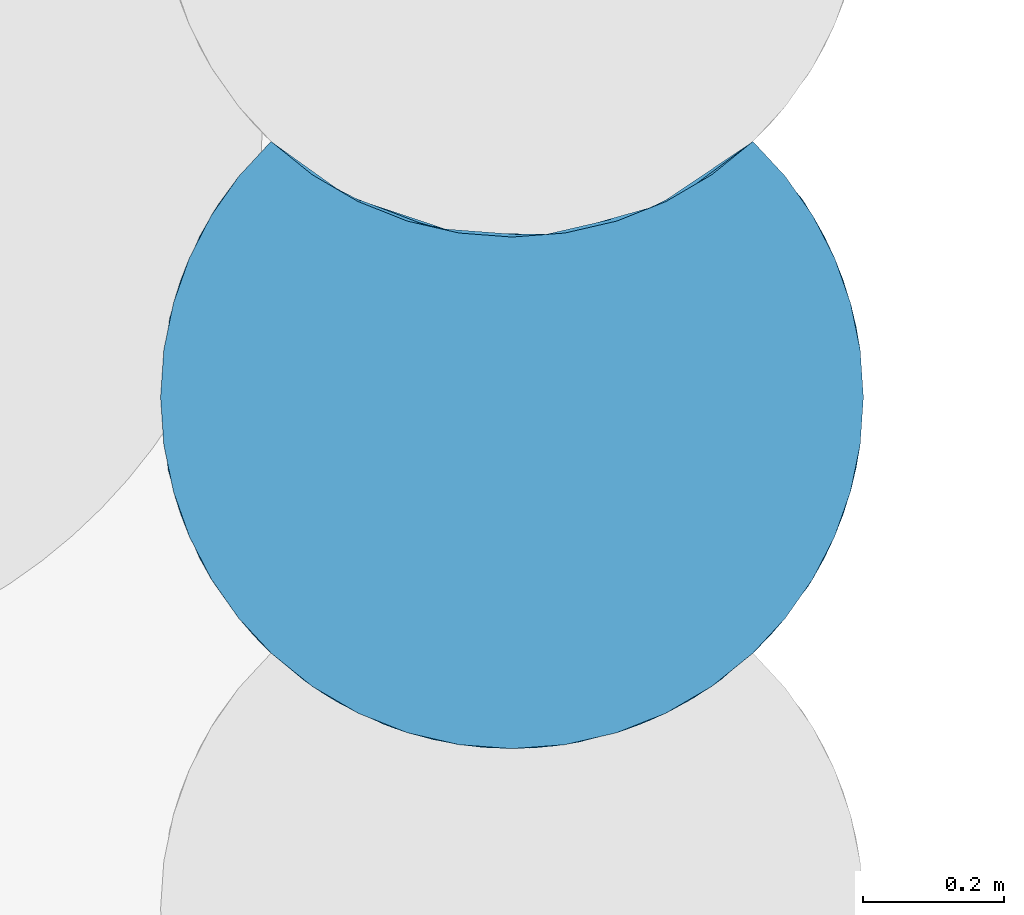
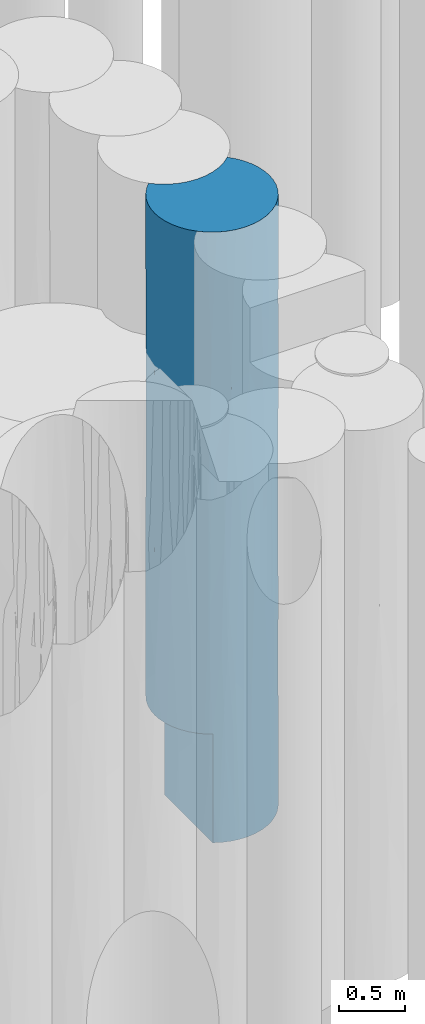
# One storey, part 45 of 104: 1 pile.
"""IFC2X3 building model written with IfcOpenShell, lengths in millimetres."""

from ifc_helpers import new_model, entity, si_unit, converted_unit, derived_unit, direction, frame, origin, place, context, subcontext, project, spatial, faceted_brep, source, transform, mapped, material, element, save


model = new_model("IFC2X3")

# Units and contexts
model_context = context("Model", 3, precision=0.01, world=origin(), true_north=direction((6.12303176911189e-17, 1.0)))
body_context = subcontext(model_context, "Body", "Model", "MODEL_VIEW")
ifc_project = project(units=[si_unit("LENGTHUNIT", "METRE", prefix="MILLI"), si_unit("AREAUNIT", "SQUARE_METRE", prefix="MILLI"), si_unit("VOLUMEUNIT", "CUBIC_METRE"), converted_unit("PLANEANGLEUNIT", "DEGREE", entity("IfcRatioMeasure", 0.0174532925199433), si_unit("PLANEANGLEUNIT", "RADIAN"), dimensions=[0, 0, 0, 0, 0, 0, 0]), si_unit("MASSUNIT", "GRAM", prefix="KILO"), derived_unit("MASSDENSITYUNIT", [(si_unit("MASSUNIT", "GRAM", prefix="KILO"), 1), (si_unit("LENGTHUNIT", "METRE"), -3)]), derived_unit("MOMENTOFINERTIAUNIT", [(si_unit("LENGTHUNIT", "METRE"), 4)]), si_unit("TIMEUNIT", "SECOND"), si_unit("FREQUENCYUNIT", "HERTZ"), si_unit("THERMODYNAMICTEMPERATUREUNIT", "DEGREE_CELSIUS"), derived_unit("THERMALTRANSMITTANCEUNIT", [(si_unit("MASSUNIT", "GRAM", prefix="KILO"), 1), (si_unit("THERMODYNAMICTEMPERATUREUNIT", "KELVIN"), -1), (si_unit("TIMEUNIT", "SECOND"), -3)]), derived_unit("VOLUMETRICFLOWRATEUNIT", [(si_unit("LENGTHUNIT", "METRE"), 3), (si_unit("TIMEUNIT", "SECOND"), -1)]), si_unit("ELECTRICCURRENTUNIT", "AMPERE"), si_unit("ELECTRICVOLTAGEUNIT", "VOLT"), si_unit("POWERUNIT", "WATT"), si_unit("FORCEUNIT", "NEWTON", prefix="KILO"), si_unit("ILLUMINANCEUNIT", "LUX"), si_unit("LUMINOUSFLUXUNIT", "LUMEN"), si_unit("LUMINOUSINTENSITYUNIT", "CANDELA"), derived_unit("USERDEFINED", [(si_unit("MASSUNIT", "GRAM", prefix="KILO"), -1), (si_unit("LENGTHUNIT", "METRE"), -2), (si_unit("TIMEUNIT", "SECOND"), 3), (si_unit("LUMINOUSFLUXUNIT", "LUMEN"), 1)]), derived_unit("LINEARVELOCITYUNIT", [(si_unit("LENGTHUNIT", "METRE"), 1), (si_unit("TIMEUNIT", "SECOND"), -1)]), si_unit("PRESSUREUNIT", "PASCAL"), derived_unit("USERDEFINED", [(si_unit("LENGTHUNIT", "METRE"), -2), (si_unit("MASSUNIT", "GRAM", prefix="KILO"), 1), (si_unit("TIMEUNIT", "SECOND"), -2)]), derived_unit("LINEARFORCEUNIT", [(si_unit("MASSUNIT", "GRAM", prefix="KILO"), 1), (si_unit("LENGTHUNIT", "METRE"), 1), (si_unit("TIMEUNIT", "SECOND"), -2), (si_unit("LENGTHUNIT", "METRE"), -1)]), derived_unit("PLANARFORCEUNIT", [(si_unit("MASSUNIT", "GRAM", prefix="KILO"), 1), (si_unit("LENGTHUNIT", "METRE"), 1), (si_unit("TIMEUNIT", "SECOND"), -2), (si_unit("LENGTHUNIT", "METRE"), -2)])], contexts=[model_context])

# Site, building, storey
site_placement = place(None, origin())
site = spatial("IfcSite", under=ifc_project, at=site_placement, Name="Theater aan de Parade", CompositionType="ELEMENT")
building_placement = place(site_placement, origin())
building = spatial("IfcBuilding", under=site, at=building_placement, Name="Theater aan de Parade", CompositionType="ELEMENT")
storey_placement = place(building_placement, frame((0.0, 0.0, -5520.0)))
storey = spatial("IfcBuildingStorey", under=building, at=storey_placement, Name="-2 kelder", CompositionType="ELEMENT", Elevation=-5520.0)

# Pile
ifc_material = material(Name="00_PBT_MAT_grout")
shared_shape = source(origin(), body_context, "Body", "Brep", [
    faceted_brep([(844.383836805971, 865.595272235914, 0.0), (890.54651868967, 815.787773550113, 0.0), (929.522999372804, 760.202813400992, 0.0), (960.609902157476, 699.85159500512, 0.0), (983.235934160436, 635.842330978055, 0.0), (996.98227680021, 569.357471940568, 0.0), (1001.59527223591, 501.595272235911, 0.0), (996.982363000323, 433.833702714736, 0.0), (983.232797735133, 367.336961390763, 0.0), (960.601026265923, 303.318400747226, 0.0), (929.506379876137, 242.960232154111, 0.0), (890.523168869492, 187.37386745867, 0.0), (844.367328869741, 137.587565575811, 0.0), (789.900252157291, 93.0854944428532, 0.0), (729.725628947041, 56.6721998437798, 0.0), (665.036786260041, 29.0628696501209, 0.0), (597.113268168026, 10.803755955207, 0.0), (527.298587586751, 2.25636970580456, 0.0), (456.973729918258, 3.5903345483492, 0.0), (387.529915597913, 14.7800152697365, 0.0), (320.34218923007, 35.6045857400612, 0.0), (256.737142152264, 65.6543403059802, 0.0), (256.737142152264, 793.654340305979, 0.0), (320.332660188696, 763.608292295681, 0.0), (387.514773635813, 742.783563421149, 0.0), (456.954548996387, 731.592053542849, 0.0), (527.278433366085, 730.255332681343, 0.0), (597.095332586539, 738.800265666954, 0.0), (665.024042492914, 757.058461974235, 0.0), (729.720490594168, 784.669565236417, 0.0), (789.902741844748, 821.087251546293, 0.0), (946.091901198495, 730.555414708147, 1043.52260300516), (844.383836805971, 865.59527223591, 1561.53796445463), (991.802660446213, 600.067179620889, 2700.88189763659), (1001.59527223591, 501.595272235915, 1561.53772532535), (973.010577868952, 668.231431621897, 1936.06593957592), (985.215355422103, 628.526809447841, 1004.42467996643), (1001.59527223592, 501.595272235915, 4058.46227467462), (1001.59527223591, 501.595272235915, 3123.0754506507), (973.010577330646, 668.231433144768, 3903.08947333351), (929.522999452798, 760.202813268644, 5620.0), (960.609902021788, 699.851595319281, 5620.0), (946.091900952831, 730.555415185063, 4676.4192162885), (913.551239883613, 784.954197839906, 2342.30656510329), (844.383836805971, 865.595272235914, 3123.07592890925), (918.831384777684, 777.120273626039, 3590.76885473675), (991.238840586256, 602.833486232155, 4676.41593122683), (844.383836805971, 865.59527223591, 2810.0), (890.546518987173, 815.787773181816, 5620.0), (1001.59527223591, 501.595272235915, 5620.0), (844.383836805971, 865.595272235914, 4058.46263982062), (844.383836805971, 865.59527223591, 4215.0), (844.383836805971, 865.595272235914, 5620.0), (844.383836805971, 865.59527223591, 1405.0), (959.857267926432, 701.585130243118, 2919.57770266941), (983.235934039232, 635.842331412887, 5620.0), (996.982276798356, 569.357471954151, 5620.0), (75.6274737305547, 239.771983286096, 1995.61399229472), (30.1805830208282, 334.957369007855, 2218.27442105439), (42.5824247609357, 303.334822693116, 1000.0), (134.88277774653, 161.710076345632, 2418.55345061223), (112.651413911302, 187.39362508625, 1000.0), (158.80670766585, 137.59527223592, 1000.0), (720.545942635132, 52.0837552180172, 5620.0), (753.846008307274, 69.8898562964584, 4632.57729967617), (785.707284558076, 90.1583214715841, 5620.0), (205.55656057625, 98.6547292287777, 1000.0), (230.643976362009, 81.3746215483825, 2134.89297890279), (422.054809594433, 7.96249900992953, 1451.97849466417), (346.510097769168, 26.2547746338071, 890.802674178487), (463.858644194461, 3.02135905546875, 2888.34534531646), (335.305702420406, 30.0575972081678, 2719.3493512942), (562.356411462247, 5.30092010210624, 1266.29474004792), (6.20734057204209, 433.839850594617, 1000.0), (1.5952722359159, 501.595272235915, 2561.53770843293), (1.5952722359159, 501.595272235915, 1000.0), (946.079419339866, 272.61089946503, 1043.5794793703), (800.820323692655, 101.01523206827, 2100.83103257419), (868.292389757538, 161.69348641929, 1387.65589207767), (868.29238979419, 161.693486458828, 2809.98987631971), (760.454010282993, 73.8194504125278, 1100.89175136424), (973.004901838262, 334.9430561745, 1936.13925481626), (985.208818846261, 374.638832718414, 1004.44881837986), (256.737142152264, 65.6543403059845, 1000.0), (112.644025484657, 187.402771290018, 5620.0), (134.87878151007, 161.714388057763, 4196.65892270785), (158.806707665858, 137.595272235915, 5620.0), (352.795268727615, 24.2499475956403, 5620.0), (389.245844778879, 14.3811446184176, 4188.02464063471), (426.337278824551, 7.29148464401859, 5620.0), (249.344536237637, 69.8898562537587, 4479.12567170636), (217.483259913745, 90.1583214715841, 5620.0), (73.6725420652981, 242.979462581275, 1000.0), (922.593400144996, 231.853587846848, 2115.32147684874), (19.9543975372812, 367.348976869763, 1000.0), (1.5952722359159, 501.595272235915, 5620.0), (1.5952722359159, 501.595272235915, 4123.07541686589), (6.20826767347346, 433.833072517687, 5620.0), (30.1799661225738, 334.959114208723, 4401.71203002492), (502.471540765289, 1.59604008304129, 2022.39135488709), (868.311763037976, 161.714388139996, 4232.3426859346), (792.130237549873, 94.668455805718, 3561.93124791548), (57.1018841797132, 272.628838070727, 3309.99400258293), (73.1041314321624, 243.922335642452, 4207.1244588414), (42.5806424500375, 303.338949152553, 5620.0), (19.9546104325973, 367.348213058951, 5620.0), (230.643976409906, 81.3746215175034, 3303.80572417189), (960.609902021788, 303.338949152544, 5620.0), (929.522999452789, 242.987731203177, 5620.0), (946.091901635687, 272.635130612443, 4676.41921033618), (959.029264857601, 299.718719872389, 2919.64207956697), (73.6675450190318, 242.987731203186, 5620.0), (596.943864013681, 10.7708168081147, 2804.93339199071), (539.331900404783, 3.02135906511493, 4273.08668055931), (722.454643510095, 53.018480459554, 2969.07538106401), (576.853265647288, 7.29148464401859, 5620.0), (665.238504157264, 29.1326889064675, 4728.7430145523), (282.644601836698, 52.0837552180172, 5620.0), (973.010578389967, 334.959114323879, 3903.08946802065), (991.556587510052, 401.906207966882, 2715.85143927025), (317.862121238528, 36.5768540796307, 1755.52061088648), (12.4038606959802, 398.194291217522, 3331.8912946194), (697.867280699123, 41.7286625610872, 2048.61973065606), (664.567992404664, 28.9009815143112, 1130.20477478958), (991.238840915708, 400.357059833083, 4676.41592103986), (983.235934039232, 367.348213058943, 5620.0), (996.982276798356, 433.833072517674, 5620.0), (152.551743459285, 143.588826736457, 3307.61325341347), (501.595272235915, 1.5952722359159, 5620.0), (926.234759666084, 237.623103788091, 3739.11688153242), (844.383836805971, 137.595272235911, 5620.0), (650.395275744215, 24.2499475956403, 5620.0), (890.546518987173, 187.402771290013, 5620.0), (685.996518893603, 36.8413801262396, 3849.22576669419), (785.695330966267, 818.150067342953, 5620.0), (720.53458465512, 780.07822308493, 5620.0), (650.386060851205, 752.247075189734, 5620.0), (576.847851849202, 735.290660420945, 5620.0), (501.595272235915, 729.595272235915, 5620.0), (426.342692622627, 735.290660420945, 5620.0), (352.804483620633, 752.247075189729, 5620.0), (282.655959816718, 780.07822308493, 5620.0), (217.495213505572, 818.150067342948, 5620.0), (158.806707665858, 865.59527223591, 5620.0), (112.651085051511, 815.796512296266, 5620.0), (73.6726367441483, 760.211238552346, 5620.0), (42.5833372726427, 699.857834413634, 5620.0), (19.9555086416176, 635.84555389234, 5620.0), (6.20818208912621, 569.356846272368, 5620.0), (422.037626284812, 735.965268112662, 809.439239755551), (158.806707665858, 865.595272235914, 1000.0), (158.806707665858, 865.595272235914, 2561.53770736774), (205.578323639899, 826.638740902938, 1000.0), (256.737142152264, 793.654340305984, 1000.0), (317.204383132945, 764.83727067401, 4600.85724456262), (562.337327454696, 733.298584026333, 1307.20068901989), (258.237007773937, 792.815287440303, 3390.49133173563), (225.507460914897, 812.73136106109, 4669.40036667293), (753.834283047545, 797.883005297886, 4692.95922475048), (340.972540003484, 756.097291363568, 1245.26829094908), (760.452843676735, 801.818744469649, 933.904601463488), (562.337327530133, 733.298584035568, 2802.30532647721), (539.329170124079, 731.021152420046, 4250.35305226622), (685.986161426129, 764.837270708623, 3987.22153552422), (341.790733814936, 755.82052670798, 2937.07933647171), (389.253215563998, 742.379445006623, 3777.86693941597), (441.601980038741, 733.207515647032, 2778.54310899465), (773.724086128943, 810.136205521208, 3787.61622226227), (677.041029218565, 761.387213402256, 849.093383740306), (672.457323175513, 759.695113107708, 4812.22637279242), (158.806707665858, 865.595272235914, 4123.0754147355), (267.680937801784, 787.685684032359, 2194.5411358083), (422.03762634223, 735.96526810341, 1681.09734198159), (415.046579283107, 737.142915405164, 4686.05792310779), (778.707993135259, 813.411971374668, 1759.56848415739), (697.858424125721, 769.724882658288, 1681.12039109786), (708.509039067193, 774.417622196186, 2842.65985011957), (57.0976620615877, 730.55350980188, 2936.01182480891), (77.6278143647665, 766.645446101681, 2004.37665318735), (30.1816560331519, 668.236210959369, 4223.57134425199), (14.2722960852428, 613.4716187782, 3074.84642249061), (30.1762796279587, 668.221000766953, 2043.51622702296), (42.5776896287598, 699.844758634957, 1000.0), (19.9506701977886, 635.828194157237, 1000.0), (73.6691815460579, 760.205521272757, 1000.0), (83.5815302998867, 775.939055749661, 4493.22792042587), (6.20537477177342, 569.336319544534, 1000.0), (112.651806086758, 815.797404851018, 1000.0)], [[[0, 1, 2, 3, 4, 5, 6, 7, 8, 9, 10, 11, 12, 13, 14, 15, 16, 17, 18, 19, 20, 21, 22, 23, 24, 25, 26, 27, 28, 29, 30]], [[31, 1, 32]], [[31, 3, 2]], [[33, 34, 35]], [[31, 36, 3]], [[37, 38, 39]], [[4, 3, 36]], [[40, 41, 42]], [[43, 44, 45]], [[42, 46, 39]], [[43, 32, 47, 44]], [[48, 40, 42]], [[49, 37, 46]], [[48, 50, 51, 52]], [[1, 0, 53, 32]], [[35, 54, 33]], [[6, 5, 34]], [[41, 55, 42]], [[5, 4, 36]], [[55, 56, 46]], [[43, 31, 32]], [[46, 42, 55]], [[50, 45, 44]], [[45, 42, 39]], [[31, 35, 36]], [[48, 42, 50]], [[1, 31, 2]], [[49, 46, 56]], [[37, 39, 46]], [[42, 45, 50]], [[54, 45, 39]], [[54, 43, 45]], [[31, 43, 35]], [[35, 34, 36]], [[5, 36, 34]], [[33, 39, 38]], [[43, 54, 35]], [[39, 33, 54]], [[34, 33, 38]], [[57, 58, 59]], [[60, 61, 62]], [[63, 64, 65]], [[66, 67, 62]], [[68, 69, 18]], [[70, 71, 68]], [[16, 72, 17]], [[73, 74, 75]], [[67, 60, 62]], [[11, 10, 76]], [[18, 69, 19]], [[77, 78, 79]], [[12, 80, 13]], [[72, 18, 17]], [[81, 76, 82]], [[34, 82, 7]], [[83, 21, 20]], [[84, 85, 86]], [[87, 88, 89]], [[90, 91, 86]], [[90, 86, 85]], [[67, 66, 83]], [[59, 92, 57]], [[93, 76, 81]], [[73, 94, 58]], [[61, 60, 57]], [[95, 96, 97]], [[98, 97, 96]], [[68, 72, 99]], [[100, 64, 101]], [[98, 102, 103]], [[103, 104, 98]], [[104, 105, 98]], [[106, 90, 85]], [[107, 108, 109]], [[93, 81, 110]], [[103, 111, 104]], [[70, 112, 113]], [[77, 101, 114]], [[115, 113, 116]], [[90, 117, 91]], [[118, 110, 119]], [[87, 90, 88]], [[67, 120, 71]], [[89, 88, 113]], [[88, 90, 106]], [[13, 80, 14]], [[73, 58, 74]], [[121, 58, 102]], [[78, 80, 12]], [[80, 122, 123]], [[70, 113, 88]], [[72, 122, 112]], [[80, 123, 14]], [[11, 78, 12]], [[123, 16, 15]], [[34, 7, 6]], [[119, 34, 38]], [[109, 124, 125]], [[124, 126, 125]], [[9, 76, 10]], [[97, 98, 105]], [[67, 106, 127]], [[82, 76, 9]], [[9, 8, 82]], [[49, 126, 124]], [[121, 96, 74]], [[38, 37, 118]], [[115, 128, 113]], [[112, 122, 114]], [[80, 77, 122]], [[121, 102, 98]], [[128, 89, 113]], [[116, 64, 63]], [[67, 71, 106]], [[109, 129, 118]], [[122, 72, 123]], [[130, 65, 64]], [[63, 131, 116]], [[130, 100, 132]], [[127, 102, 60]], [[103, 84, 111]], [[129, 110, 118]], [[118, 124, 109]], [[90, 87, 117]], [[102, 58, 57]], [[109, 132, 100]], [[60, 67, 127]], [[109, 125, 107]], [[68, 120, 69]], [[71, 88, 106]], [[18, 72, 68]], [[116, 133, 64]], [[94, 59, 58]], [[11, 76, 78]], [[132, 109, 108]], [[129, 109, 100]], [[118, 37, 124]], [[49, 124, 37]], [[101, 64, 133]], [[130, 64, 100]], [[114, 101, 133]], [[79, 100, 101]], [[67, 83, 120]], [[88, 71, 70]], [[100, 79, 129]], [[79, 93, 110]], [[79, 110, 129]], [[119, 110, 81]], [[79, 78, 93]], [[76, 93, 78]], [[96, 121, 98]], [[58, 121, 74]], [[34, 119, 81]], [[118, 119, 38]], [[78, 77, 80]], [[101, 77, 79]], [[7, 82, 8]], [[34, 81, 82]], [[115, 116, 131]], [[113, 133, 116]], [[16, 123, 72]], [[14, 123, 15]], [[69, 120, 83]], [[68, 71, 120]], [[83, 20, 69]], [[19, 69, 20]], [[133, 113, 112]], [[77, 114, 122]], [[133, 112, 114]], [[112, 70, 99]], [[106, 85, 127]], [[127, 85, 103]], [[127, 103, 102]], [[103, 85, 84]], [[61, 57, 92]], [[102, 57, 60]], [[112, 99, 72]], [[70, 68, 99]], [[134, 135, 136, 137, 138, 139, 140, 141, 142, 143, 144, 145, 146, 147, 148, 95, 97, 105, 104, 111, 84, 86, 91, 117, 87, 89, 128, 115, 131, 63, 65, 130, 132, 108, 107, 125, 126, 49, 56, 55, 41, 40, 48, 52]], [[25, 24, 149]], [[150, 151, 152]], [[23, 22, 153]], [[141, 140, 154]], [[149, 155, 26]], [[156, 157, 154]], [[52, 158, 134]], [[149, 24, 159]], [[30, 160, 0]], [[161, 162, 163]], [[164, 165, 166]], [[163, 158, 167]], [[29, 28, 168]], [[162, 169, 163]], [[143, 157, 170]], [[154, 157, 141]], [[153, 152, 171]], [[155, 149, 172, 161]], [[154, 173, 165]], [[158, 51, 167]], [[27, 26, 155]], [[53, 160, 174]], [[166, 165, 162]], [[174, 160, 175]], [[175, 160, 168]], [[136, 135, 169]], [[175, 155, 161]], [[28, 27, 168]], [[160, 30, 29]], [[139, 138, 173]], [[160, 29, 168]], [[140, 139, 173]], [[138, 137, 162]], [[159, 24, 23]], [[161, 172, 166]], [[169, 162, 137]], [[163, 169, 158]], [[175, 161, 176]], [[176, 167, 47]], [[171, 159, 153]], [[0, 160, 53]], [[134, 158, 135]], [[173, 154, 140]], [[142, 141, 157]], [[156, 154, 165]], [[51, 158, 52]], [[26, 25, 149]], [[172, 149, 159]], [[156, 151, 170]], [[151, 171, 152]], [[166, 172, 164]], [[153, 159, 23]], [[159, 171, 172]], [[156, 171, 151]], [[163, 167, 176]], [[167, 51, 50, 44, 47]], [[163, 176, 161]], [[174, 175, 176]], [[173, 162, 165]], [[162, 173, 138]], [[168, 155, 175]], [[155, 168, 27]], [[174, 47, 32, 53]], [[47, 174, 176]], [[158, 169, 135]], [[137, 136, 169]], [[161, 166, 162]], [[164, 156, 165]], [[164, 171, 156]], [[171, 164, 172]], [[142, 157, 143]], [[170, 157, 156]], [[177, 170, 151]], [[177, 151, 178]], [[179, 177, 180]], [[181, 178, 182]], [[181, 182, 183]], [[184, 182, 178]], [[180, 96, 179]], [[96, 95, 148]], [[144, 170, 185]], [[143, 170, 144]], [[181, 186, 74]], [[187, 178, 151]], [[180, 177, 181]], [[150, 187, 151]], [[186, 181, 183]], [[148, 147, 179]], [[178, 187, 184]], [[179, 185, 177]], [[186, 75, 74]], [[146, 185, 179]], [[145, 185, 146]], [[181, 177, 178]], [[148, 179, 96]], [[180, 181, 74]], [[96, 180, 74]], [[179, 147, 146]], [[144, 185, 145]], [[177, 185, 170]], [[186, 183, 182, 184, 187, 150, 152, 153, 83, 66, 62, 61, 92, 59, 94, 73, 75]], [[83, 153, 22, 21]]]),
])
pile_placement = place(storey_placement, frame((38948.2628578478, 24428.7721311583, -3840.0)))
element("IfcPile", 1, at=pile_placement, inside=storey, material=ifc_material, Name="17_PBT_SFO_grondkering_rond:Ø1000 (grondkering)", ObjectType="17_PBT_SFO_grondkering_rond:Ø1000 (grondkering)", PredefinedType="NOTDEFINED", context=body_context, shape_type="MappedRepresentation", body=[
    mapped(shared_shape, transform((0.0, 0.0, 0.0), scale=1.0)),
])

save(model, "model.ifc")
